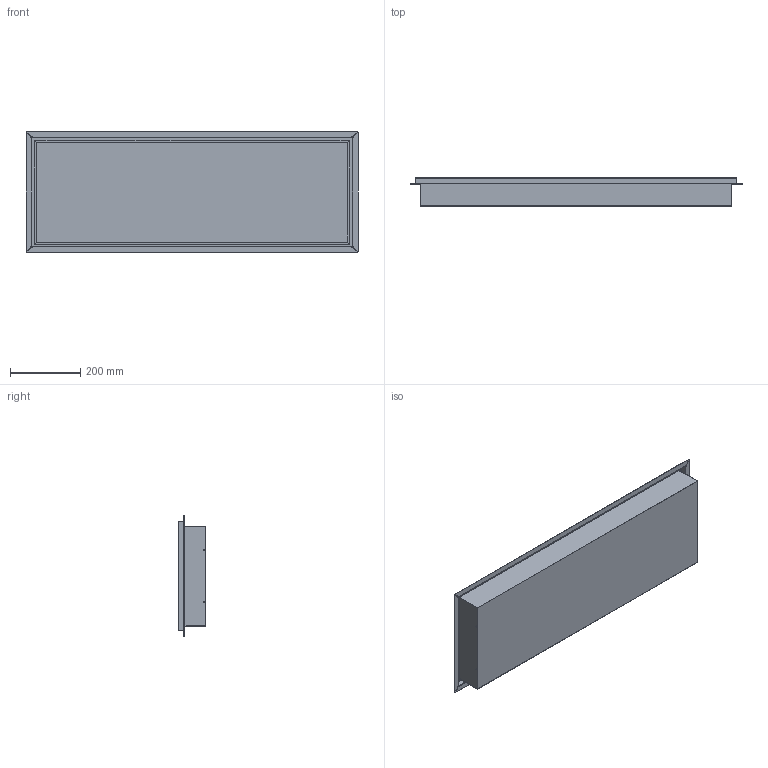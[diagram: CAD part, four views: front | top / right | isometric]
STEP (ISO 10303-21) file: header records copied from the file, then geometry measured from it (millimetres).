
FILE_DESCRIPTION(/* description */ (''),/* implementation_level */ '2;1');
FILE_NAME(/* name */ 'C:/Users/elena/Desktop/Corner QNR 30x90.step',/* time_stamp */ '2020-06-17T13:29:53+02:00',/* author */ (''),/* organization */ (''),/* preprocessor_version */ 'ST-DEVELOPER v18.1',/* originating_system */ 'Autodesk Translation Framework v9.3.0.1241',/* authorisation */ '');
FILE_SCHEMA (('AUTOMOTIVE_DESIGN { 1 0 10303 214 3 1 1 }'));
Length unit declared in the file: millimetre
Products named in the file (1): (Unsaved)
Bounding box: 942 x 79 x 342 mm (x, y, z)
Volume: 1347118.9 mm3; surface area: 1652857.6 mm2
Topology: 3 solids, 3 shells, 153 faces, 374 edges, 221 vertices
Faces by surface type: plane 89, cylinder 60, bspline 4
Entity records: 5074 total; most frequent: CARTESIAN_POINT 1375, DIRECTION 780, ORIENTED_EDGE 748, EDGE_CURVE 374, AXIS2_PLACEMENT_3D 264, LINE 252, VECTOR 252, VERTEX_POINT 221
